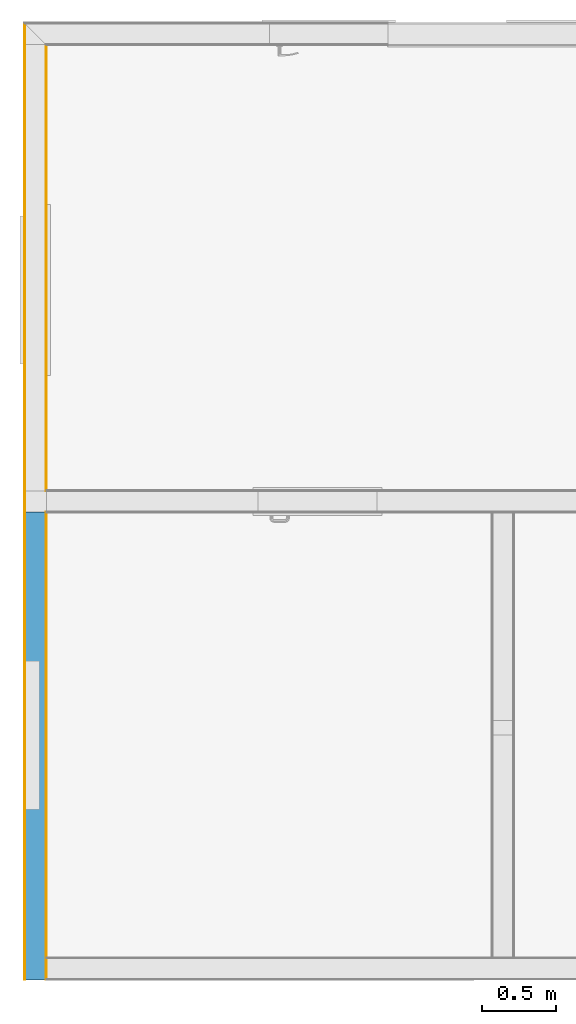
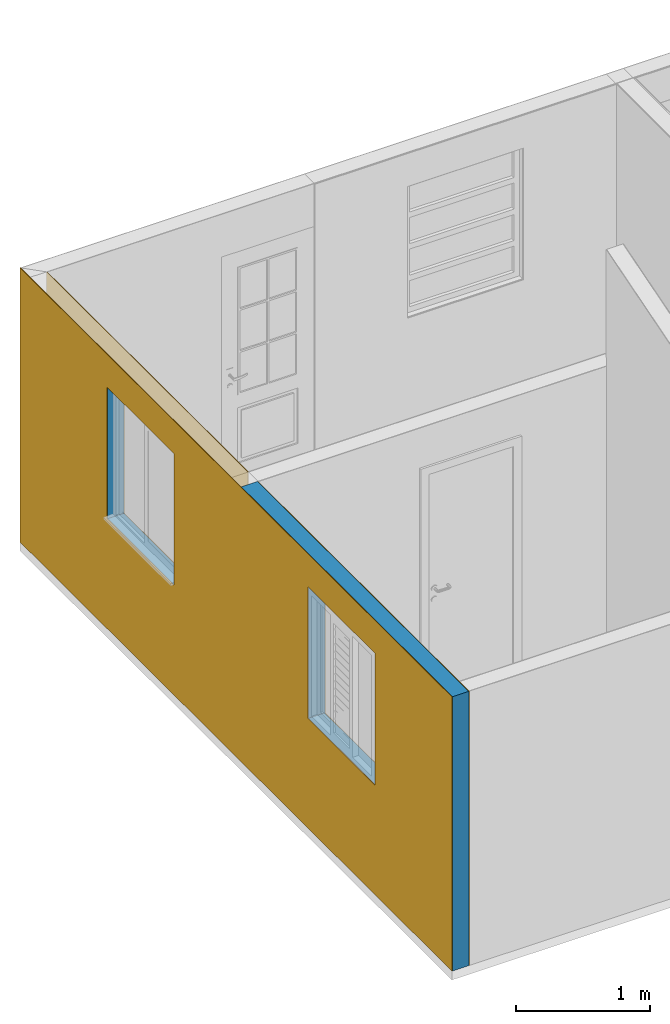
# One storey, part 5 of 7: 2 coverings, 1 building element part, 2 openings, 1 element without a shape of its own.
"""IFC2X3 building model written with IfcOpenShell, lengths in millimetres."""

from ifc_helpers import new_model, entity, si_unit, converted_unit, derived_unit, money_unit, direction, frame, origin_with_axes, origin_2d_with_axis, place, context, subcontext, project, spatial, polyline, rectangle, outline, extrude, boolean, faceted_brep, material, type_object, element, aggregate, save


model = new_model("IFC2X3")

# Units and contexts
model_context = context("Model", 3, precision=0.01, world=origin_with_axes(), true_north=direction((0.0, 1.0)))
body_context = subcontext(model_context, "Body", "Model", "MODEL_VIEW")
ifc_project = project(units=[si_unit("LENGTHUNIT", "METRE", prefix="MILLI"), si_unit("AREAUNIT", "SQUARE_METRE"), si_unit("VOLUMEUNIT", "CUBIC_METRE"), converted_unit("PLANEANGLEUNIT", "DEGREE", entity("IfcPlaneAngleMeasure", 0.0174532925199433), si_unit("PLANEANGLEUNIT", "RADIAN"), dimensions=[0, 0, 0, 0, 0, 0, 0]), money_unit("USD"), converted_unit("TIMEUNIT", "Year", entity("IfcTimeMeasure", 31557600.0), si_unit("TIMEUNIT", "SECOND"), dimensions=[0, 0, 1, 0, 0, 0, 0]), si_unit("MASSUNIT", "GRAM", prefix="KILO"), si_unit("THERMODYNAMICTEMPERATUREUNIT", "DEGREE_CELSIUS"), si_unit("LUMINOUSINTENSITYUNIT", "LUMEN"), si_unit("ENERGYUNIT", "JOULE", prefix="MEGA"), derived_unit("THERMALCONDUCTANCEUNIT", [(si_unit("POWERUNIT", "WATT"), 1), (si_unit("LENGTHUNIT", "METRE"), -1), (si_unit("THERMODYNAMICTEMPERATUREUNIT", "KELVIN"), -1)]), derived_unit("SPECIFICHEATCAPACITYUNIT", [(si_unit("ENERGYUNIT", "JOULE"), 1), (si_unit("MASSUNIT", "GRAM", prefix="KILO"), -1), (si_unit("THERMODYNAMICTEMPERATUREUNIT", "KELVIN"), -1)]), derived_unit("MASSDENSITYUNIT", [(si_unit("MASSUNIT", "GRAM", prefix="KILO"), 1), (si_unit("VOLUMEUNIT", "CUBIC_METRE"), -1)])], contexts=[model_context])

# Site, building, storey
site_placement = place(None, origin_with_axes())
site = spatial("IfcSite", under=ifc_project, at=site_placement, Name="Local", CompositionType="ELEMENT")
building_placement = place(site_placement, origin_with_axes())
building = spatial("IfcBuilding", under=site, at=building_placement, Name="Construção", CompositionType="ELEMENT")
storey_placement = place(building_placement, origin_with_axes())
storey = spatial("IfcBuildingStorey", under=building, at=storey_placement, Name="Pavimento Térreo", CompositionType="ELEMENT", Elevation=0.0)

# Wall, openings, coverings, building element part
wall_type = type_object("IfcWallType", Name="Alvenaria 140, Rebocada 2 Faces 150", PredefinedType="NOTDEFINED")
wall_placement = place(storey_placement, frame((0.0, 6450.000000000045, 0.0), z_axis=(0.0, 0.0, 1.0), x_axis=(0.0, -1.0, 0.0)))
wall = element("IfcWall", 1, at=wall_placement, inside=storey, type_object=wall_type, Name="Parede-01")
opening_1_placement = place(wall_placement, frame((4800.000000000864, 0.0, 1000.0), z_axis=(0.0, 0.0, 1.0), x_axis=(1.0, 0.0, 0.0)))
element("IfcOpeningElement", 2, at=opening_1_placement, cuts=wall, Name="J03", context=body_context, shape_type="SweptSolid", body=[
    extrude(rectangle(XDim=1000.0, YDim=1200.0, at=origin_2d_with_axis()), frame((0.0, 150.0000000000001, 600.0000000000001), z_axis=(0.0, 1.0, 0.0), x_axis=(1.0, 0.0, 0.0)), (0.0, 0.0, -1.0), 450.0000000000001),
])
opening_2_placement = place(wall_placement, frame((1800.000000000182, 0.0, 1000.0), z_axis=(0.0, 0.0, 1.0), x_axis=(1.0, 0.0, 0.0)))
element("IfcOpeningElement", 3, at=opening_2_placement, cuts=wall, Name="J02", context=body_context, shape_type="SweptSolid", body=[
    extrude(rectangle(XDim=1000.0, YDim=1200.0, at=origin_2d_with_axis()), frame((0.0, 49.99999999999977, 600.0000000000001), z_axis=(0.0, -1.0, 0.0), x_axis=(-1.0, 0.0, 0.0)), (0.0, 0.0, -1.0), 250.0000000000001),
    extrude(rectangle(XDim=1000.0, YDim=1200.0, at=origin_2d_with_axis()), frame((0.0, 49.99999999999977, 600.0000000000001), z_axis=(0.0, 1.0, 0.0), x_axis=(-1.0, 0.0, 0.0)), (0.0, 0.0, -1.0), 200.0),
    extrude(rectangle(XDim=1150.0, YDim=1350.0, at=origin_2d_with_axis()), frame((0.0, 149.9999999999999, 599.9999999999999), z_axis=(0.0, -1.0, 0.0), x_axis=(-1.0, 0.0, 0.0)), (0.0, 0.0, -1.0), 200.0),
])
ifc_material_1 = material(Name="Reboco DEF")
covering_1_placement = place(wall_placement, origin_with_axes())
covering_1 = element("IfcCovering", 4, at=covering_1_placement, material=ifc_material_1, Name="Reboco DEF", PredefinedType="CLADDING", context=body_context, shape_type="CSG", body=[
    boolean("DIFFERENCE", boolean("DIFFERENCE", boolean("DIFFERENCE", extrude(outline(polyline([(0.0, 0.0), (6450.000000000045, 0.0), (6450.000000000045, 5.000000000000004), (0.0, 5.000000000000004), (0.0, 0.0)])), origin_with_axes(), (0.0, 0.0, 1.0), 2500.0), faceted_brep([(3295.000000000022, 145.0, 2300.0), (4.999999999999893, 145.0, 2300.0), (4.999999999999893, 145.0, 0.0), (0.0, 145.0, 0.0), (0.0, 145.0, 2500.0), (3295.000000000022, 144.9999999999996, 2500.0), (3295.000000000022, 4.999999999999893, 2300.0), (4.999999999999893, 5.000000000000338, 2300.0), (5.000000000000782, 4.999999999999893, 0.0), (0.0, 5.000000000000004, 0.0), (0.0, 5.000000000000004, 2500.0), (3295.000000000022, 4.999999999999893, 2500.0)], [[[0, 1, 2, 3, 4, 5]], [[1, 0, 6, 7]], [[2, 1, 7, 8]], [[2, 8, 9, 3]], [[4, 3, 9, 10]], [[11, 5, 4, 10]], [[5, 11, 6, 0]], [[6, 11, 10, 9, 8, 7]]])), faceted_brep([(3155.000000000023, 149.9999999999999, 2500.0), (3155.000000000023, 144.9999999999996, 2500.0), (3295.000000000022, 144.9999999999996, 2500.0), (3295.000000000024, 149.9999999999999, 2500.0), (3155.000000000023, 149.9999999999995, 0.0), (3155.000000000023, 144.9999999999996, 0.0), (3295.000000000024, 144.9999999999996, 0.0), (3295.000000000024, 149.9999999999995, 0.0)], [[[0, 1, 2, 3]], [[1, 0, 4, 5]], [[1, 5, 6, 2]], [[7, 3, 2, 6]], [[4, 0, 3, 7]], [[5, 4, 7, 6]]])), faceted_brep([(144.9999999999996, 145.0, 2500.0), (144.9999999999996, 150.0000000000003, 2500.0), (0.0, 150.0, 2500.0), (0.0, 145.0, 2500.0), (144.9999999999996, 149.9999999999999, 0.0), (144.9999999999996, 145.0, 0.0), (0.0, 150.0, 0.0), (0.0, 145.0, 0.0)], [[[0, 1, 2, 3]], [[4, 1, 0, 5]], [[1, 4, 6, 2]], [[2, 6, 7, 3]], [[5, 0, 3, 7]], [[4, 5, 7, 6]]])),
])
covering_2_placement = place(wall_placement, origin_with_axes())
covering_2 = element("IfcCovering", 5, at=covering_2_placement, material=ifc_material_1, Name="Reboco DEF", PredefinedType="CLADDING", context=body_context, shape_type="CSG", body=[
    boolean("DIFFERENCE", boolean("DIFFERENCE", boolean("DIFFERENCE", extrude(outline(polyline([(0.0, 145.0), (6450.000000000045, 145.0), (6450.000000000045, 150.0), (0.0, 150.0), (0.0, 145.0)])), origin_with_axes(), (0.0, 0.0, 1.0), 2500.0), faceted_brep([(3295.000000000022, 145.0, 2300.0), (4.999999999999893, 145.0, 2300.0), (4.999999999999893, 145.0, 0.0), (0.0, 145.0, 0.0), (0.0, 145.0, 2500.0), (3295.000000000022, 144.9999999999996, 2500.0), (3295.000000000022, 4.999999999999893, 2300.0), (4.999999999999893, 5.000000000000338, 2300.0), (5.000000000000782, 4.999999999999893, 0.0), (0.0, 5.000000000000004, 0.0), (0.0, 5.000000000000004, 2500.0), (3295.000000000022, 4.999999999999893, 2500.0)], [[[0, 1, 2, 3, 4, 5]], [[1, 0, 6, 7]], [[2, 1, 7, 8]], [[2, 8, 9, 3]], [[4, 3, 9, 10]], [[11, 5, 4, 10]], [[5, 11, 6, 0]], [[6, 11, 10, 9, 8, 7]]])), faceted_brep([(3155.000000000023, 149.9999999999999, 2500.0), (3155.000000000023, 144.9999999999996, 2500.0), (3295.000000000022, 144.9999999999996, 2500.0), (3295.000000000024, 149.9999999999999, 2500.0), (3155.000000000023, 149.9999999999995, 0.0), (3155.000000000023, 144.9999999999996, 0.0), (3295.000000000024, 144.9999999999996, 0.0), (3295.000000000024, 149.9999999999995, 0.0)], [[[0, 1, 2, 3]], [[1, 0, 4, 5]], [[1, 5, 6, 2]], [[7, 3, 2, 6]], [[4, 0, 3, 7]], [[5, 4, 7, 6]]])), faceted_brep([(144.9999999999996, 145.0, 2500.0), (144.9999999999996, 150.0000000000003, 2500.0), (0.0, 150.0, 2500.0), (0.0, 145.0, 2500.0), (144.9999999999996, 149.9999999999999, 0.0), (144.9999999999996, 145.0, 0.0), (0.0, 150.0, 0.0), (0.0, 145.0, 0.0)], [[[0, 1, 2, 3]], [[4, 1, 0, 5]], [[1, 4, 6, 2]], [[2, 6, 7, 3]], [[5, 0, 3, 7]], [[4, 5, 7, 6]]])),
])
ifc_material_2 = material(Name="Bloco de Concreto - Estrutural DEF")
building_element_part_placement = place(wall_placement, origin_with_axes())
building_element_part = element("IfcBuildingElementPart", 6, at=building_element_part_placement, material=ifc_material_2, Name="Bloco de Concreto - Estrutural DEF", context=body_context, shape_type="CSG", body=[
    boolean("DIFFERENCE", boolean("DIFFERENCE", boolean("DIFFERENCE", extrude(outline(polyline([(0.0, 4.999999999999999), (6450.000000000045, 4.999999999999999), (6450.000000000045, 145.0), (0.0, 145.0), (0.0, 4.999999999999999)])), origin_with_axes(), (0.0, 0.0, 1.0), 2500.0), faceted_brep([(3295.000000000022, 145.0, 2300.0), (4.999999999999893, 145.0, 2300.0), (4.999999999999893, 145.0, 0.0), (0.0, 145.0, 0.0), (0.0, 145.0, 2500.0), (3295.000000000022, 144.9999999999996, 2500.0), (3295.000000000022, 4.999999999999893, 2300.0), (4.999999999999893, 5.000000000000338, 2300.0), (5.000000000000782, 4.999999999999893, 0.0), (0.0, 5.000000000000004, 0.0), (0.0, 5.000000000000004, 2500.0), (3295.000000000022, 4.999999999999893, 2500.0)], [[[0, 1, 2, 3, 4, 5]], [[1, 0, 6, 7]], [[2, 1, 7, 8]], [[2, 8, 9, 3]], [[4, 3, 9, 10]], [[11, 5, 4, 10]], [[5, 11, 6, 0]], [[6, 11, 10, 9, 8, 7]]])), faceted_brep([(3155.000000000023, 149.9999999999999, 2500.0), (3155.000000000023, 144.9999999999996, 2500.0), (3295.000000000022, 144.9999999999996, 2500.0), (3295.000000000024, 149.9999999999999, 2500.0), (3155.000000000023, 149.9999999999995, 0.0), (3155.000000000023, 144.9999999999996, 0.0), (3295.000000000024, 144.9999999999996, 0.0), (3295.000000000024, 149.9999999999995, 0.0)], [[[0, 1, 2, 3]], [[1, 0, 4, 5]], [[1, 5, 6, 2]], [[7, 3, 2, 6]], [[4, 0, 3, 7]], [[5, 4, 7, 6]]])), faceted_brep([(144.9999999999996, 145.0, 2500.0), (144.9999999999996, 150.0000000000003, 2500.0), (0.0, 150.0, 2500.0), (0.0, 145.0, 2500.0), (144.9999999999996, 149.9999999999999, 0.0), (144.9999999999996, 145.0, 0.0), (0.0, 150.0, 0.0), (0.0, 145.0, 0.0)], [[[0, 1, 2, 3]], [[4, 1, 0, 5]], [[1, 4, 6, 2]], [[2, 6, 7, 3]], [[5, 0, 3, 7]], [[4, 5, 7, 6]]])),
])
aggregate(wall, [covering_1, building_element_part, covering_2])

save(model, "model.ifc")
